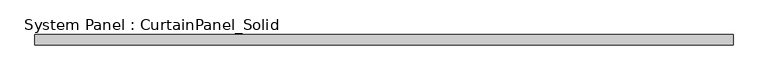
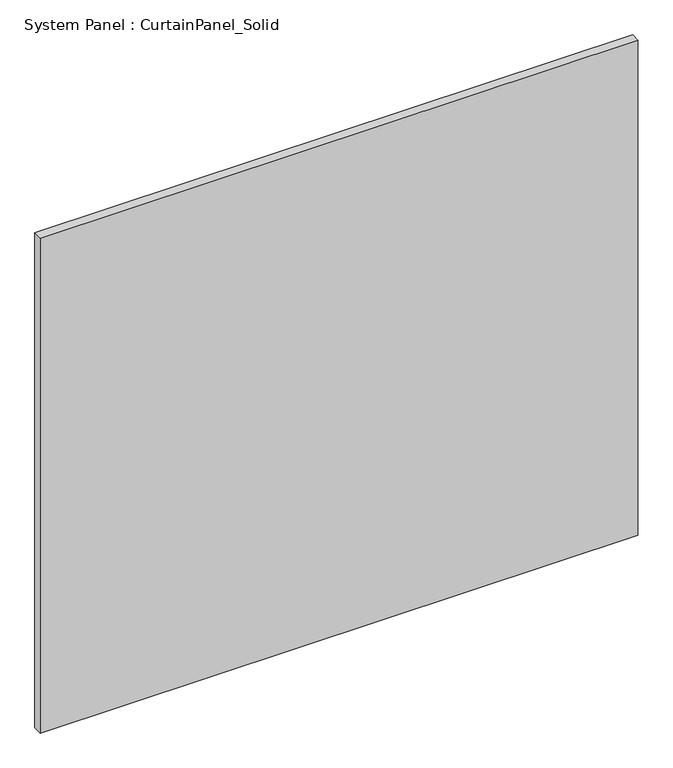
"""IFC4 building model written with IfcOpenShell, lengths in millimetres: plate geometry, System Panel : CurtainPanel_Solid."""

from ifc_helpers import new_model, si_unit, origin, origin_with_axes, place, context, project, spatial, polyline, outline, extrude, source, transform, mapped, element, save


def system_panel_curtainpanel_solid_a51c248c(model_context):
    return source(origin(), model_context, "Body", "SweptSolid", [
        extrude(outline(polyline([(828.0555557, -12.5), (-828.0555557, -12.5), (-828.0555557, 12.5), (828.0555557, 12.5), (828.0555557, -12.5)])), origin_with_axes(), (0.0, 0.0, 1.0), 1450.0),
    ])


if __name__ == "__main__":
    model = new_model("IFC4")
    model_context = context("Model", 3, world=origin())
    ifc_project = project(units=[si_unit("LENGTHUNIT", "METRE", prefix="MILLI")], contexts=[model_context])
    site = spatial("IfcSite", under=ifc_project)
    building = spatial("IfcBuilding", under=site)
    placement = place(None, origin())
    system_panel_curtainpanel_solid_shape = system_panel_curtainpanel_solid_a51c248c(model_context)
    element("IfcPlate", 1, ObjectType="System Panel : CurtainPanel_Solid", at=placement, inside=building, context=model_context, shape_type="MappedRepresentation", body=[
        mapped(system_panel_curtainpanel_solid_shape, transform((0.0, 0.0, 0.0), x_axis=(1.0, 0.0, 0.0), y_axis=(0.0, 1.0, 0.0), z_axis=(0.0, 0.0, 1.0))),
    ])
    save(model, "model.ifc")
